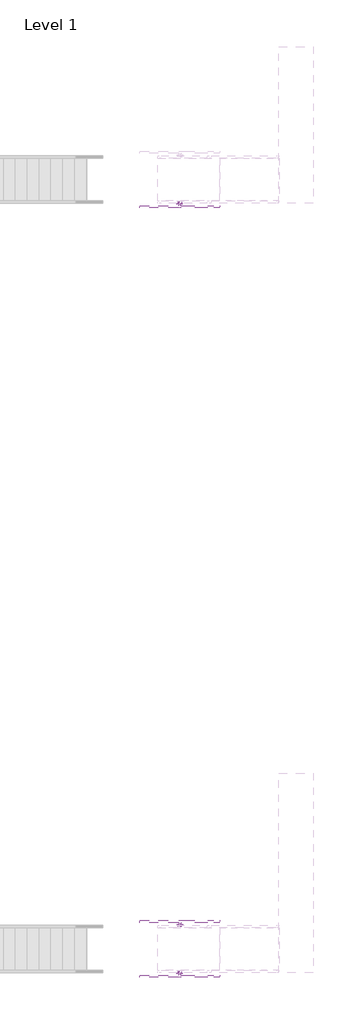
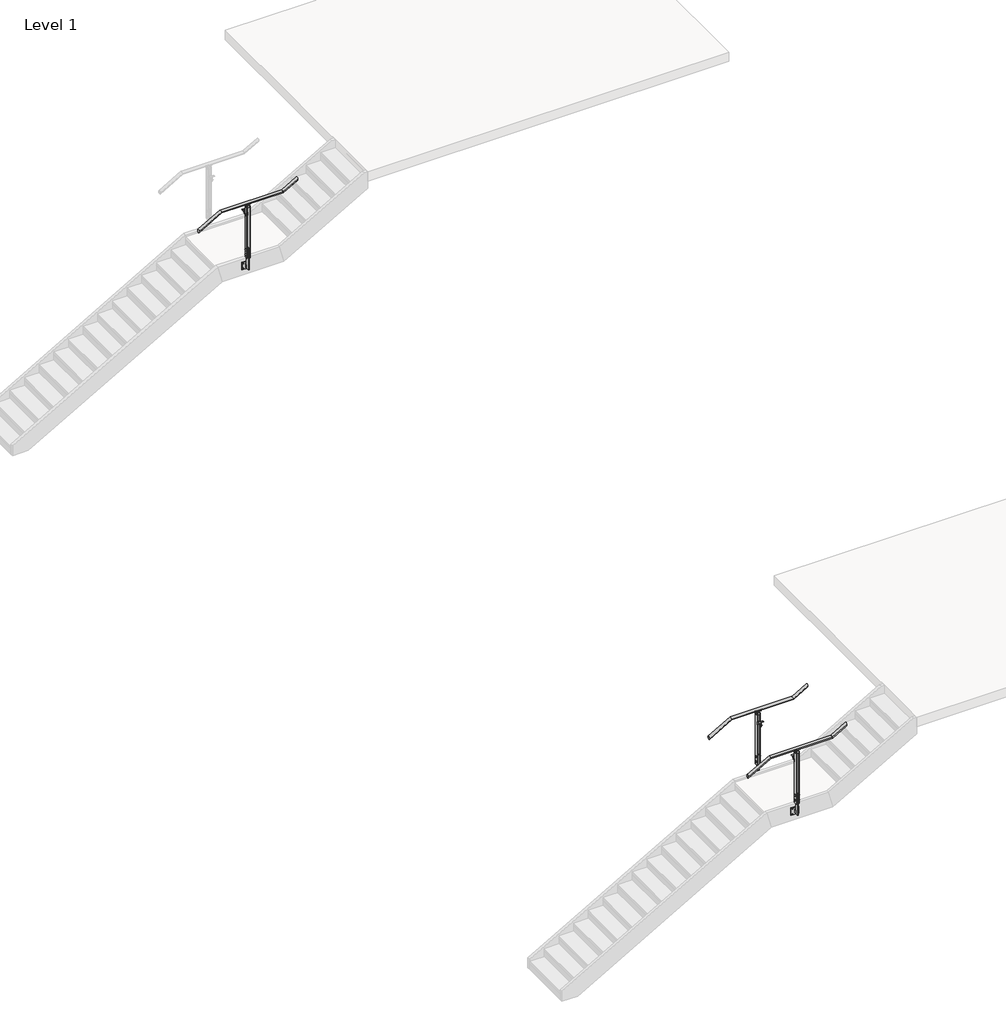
# One storey, part 27 of 36: 3 railings.
"""IFC4 building model written with IfcOpenShell, lengths in millimetres."""

from ifc_helpers import new_model, si_unit, point, frame, frame_2d, origin, place, context, project, spatial, polyline, circle_curve, ellipse_curve, trimmed, segment, composite_curve, outline, extrude, element, save
from ifc_brep_helpers import plane_surface, cylinder_surface, revolved_surface, advanced_brep

model = new_model("IFC4")

# Units and contexts
model_context = context("Model", 3, world=origin())
ifc_project = project(units=[si_unit("LENGTHUNIT", "METRE", prefix="MILLI")], contexts=[model_context])

# Site, building, storey
site = spatial("IfcSite", under=ifc_project)
building = spatial("IfcBuilding", under=site)
storey = spatial("IfcBuildingStorey", under=building, Name="Level 1", Elevation=0.0)

# Railings
placement = place(None, origin())
element("IfcRailing", 1, ObjectType="VIVA-BLADE-Perforated-Fascia Mount-Stair-Landing", at=placement, inside=storey, context=model_context, shape_type="SolidModel", body=[
    advanced_brep(
    [(161125.2211992, -2544.3711813, 3047.7740933), (161125.2211992, -2493.5711813, 3047.7740933), (161512.9665359, -2544.3711813, 3269.3428571), (161512.9665359, -2493.5711813, 3269.3428571), (162579.7665359, -2544.3711813, 3269.3428571), (162579.7665359, -2493.5711813, 3269.3428571), (162830.1961992, -2544.3711813, 3412.4455219), (162830.1961992, -2493.5711813, 3412.4455219)],
    [
        (0, 1, ellipse_curve(frame((161125.2211992, -2518.9711813, 3047.7740933), z_axis=(-1.0, 0.0, 0.0), x_axis=(0.0, 0.0, -1.0)), 29.2544781, 25.4)),
        (1, 0, ellipse_curve(frame((161125.2211992, -2518.9711813, 3047.7740933), z_axis=(-1.0, 0.0, 0.0), x_axis=(0.0, 0.0, -1.0)), 29.2544781, 25.4)),
        (0, 2),
        (2, 3, ellipse_curve(frame((161512.9665359, -2518.9711813, 3269.3428571), z_axis=(-0.9664996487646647, 0.0, -0.25666793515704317), x_axis=(0.2566679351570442, 0.0, -0.9664996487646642)), 26.2804027, 25.4)),
        (3, 1),
        (3, 2, ellipse_curve(frame((161512.9665359, -2518.9711813, 3269.3428571), z_axis=(-0.9664996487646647, 0.0, -0.25666793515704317), x_axis=(0.2566679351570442, 0.0, -0.9664996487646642)), 26.2804027, 25.4)),
        (2, 4),
        (4, 5, ellipse_curve(frame((162579.7665359, -2518.9711813, 3269.3428571), z_axis=(-0.966499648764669, 0.0, -0.25666793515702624), x_axis=(-0.25666793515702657, 0.0, 0.966499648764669)), 26.2804027, 25.4)),
        (5, 3),
        (5, 4, ellipse_curve(frame((162579.7665359, -2518.9711813, 3269.3428571), z_axis=(-0.966499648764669, 0.0, -0.25666793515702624), x_axis=(-0.25666793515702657, 0.0, 0.966499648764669)), 26.2804027, 25.4)),
        (6, 7, ellipse_curve(frame((162830.1961992, -2518.9711813, 3412.4455219), z_axis=(1.0, 0.0, 0.0), x_axis=(0.0, 0.0, -1.0)), 29.2544781, 25.4)),
        (7, 6, ellipse_curve(frame((162830.1961992, -2518.9711813, 3412.4455219), z_axis=(1.0, 0.0, 0.0), x_axis=(0.0, 0.0, -1.0)), 29.2544781, 25.4)),
        (4, 6),
        (7, 5),
    ],
    [
        plane_surface(frame((161125.2211992, -2518.9711813, 3077.0285714), z_axis=(-1.0, 0.0, 0.0), x_axis=(0.0, 1.0, 0.0))),
        cylinder_surface(frame((161137.8231282, -2518.9711813, 3054.9751956), z_axis=(-0.8682431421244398, 0.0, -0.49613893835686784), x_axis=(0.0, 1.0, 0.0)), 25.4),
        cylinder_surface(frame((161506.2211992, -2518.9711813, 3269.3428571), z_axis=(-1.0, 0.0, 0.0), x_axis=(0.0, 1.0, 0.0)), 25.4),
        plane_surface(frame((162830.1961992, -2518.9711813, 3441.7), z_axis=(1.0, 0.0, 0.0), x_axis=(0.0, 1.0, 0.0))),
        cylinder_surface(frame((162585.6231282, -2518.9711813, 3272.6894813), z_axis=(-0.8682431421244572, 0.0, -0.49613893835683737), x_axis=(0.0, 1.0, 0.0)), 25.4),
    ],
    [
        (0, [[1, 2]]),
        (1, [[-1, 3, 4, 5]]),
        (1, [[-2, -5, 6, -3]]),
        (2, [[-4, 7, 8, 9]]),
        (2, [[-6, -9, 10, -7]]),
        (3, [[11, 12]]),
        (4, [[-8, 13, -12, 14]]),
        (4, [[-10, -14, -11, -13]]),
    ],
),
    extrude(outline(composite_curve([segment(trimmed(circle_curve(frame_2d((0.0, 7.0)), 7.0), [point((0.0, 14.0))], [point((0.0, 0.0))], False, "CARTESIAN"), True, "CONTINUOUS"), segment(trimmed(circle_curve(frame_2d((0.0, 7.0)), 7.0), [point((0.0, 0.0))], [point((0.0, 14.0))], False, "CARTESIAN"), True, "CONTINUOUS")], self_intersect=False)), frame((161977.6244493, -2433.2875589, 3013.7229503), z_axis=(0.0012555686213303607, 0.0, 0.999999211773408), x_axis=(0.999999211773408, 0.0, -0.0012555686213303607)), (0.0, 0.0, 1.0), 75.97),
    extrude(outline(composite_curve([segment(trimmed(circle_curve(frame_2d((-2425.0396268, 3111.669086)), 19.05), [point((-2438.5692151, 3098.2581672))], [point((-2411.5100386, 3098.2581672))], True, "CARTESIAN"), True, "CONTINUOUS"), segment(polyline([(-2411.5100386, 3098.2581672), (-2410.483649, 3097.2407802)]), True, "CONTINUOUS"), segment(trimmed(circle_curve(frame_2d((-2411.5396268, 3096.1754583)), 1.5), [point((-2410.483649, 3097.2407802))], [point((-2410.5542254, 3095.0445366))], False, "CARTESIAN"), True, "CONTINUOUS"), segment(trimmed(circle_curve(frame_2d((-2425.0396268, 3111.669086)), 22.05), [point((-2410.5542254, 3095.0445366))], [point((-2439.5250283, 3095.0445366))], False, "CARTESIAN"), True, "CONTINUOUS"), segment(trimmed(circle_curve(frame_2d((-2438.5396268, 3096.1754583)), 1.5), [point((-2439.5250283, 3095.0445366))], [point((-2439.5956047, 3097.2407802))], False, "CARTESIAN"), True, "CONTINUOUS"), segment(polyline([(-2439.5956047, 3097.2407802), (-2438.5692151, 3098.2581672)]), True, "CONTINUOUS")], self_intersect=False)), frame((161941.2730645, 0.0, 0.0), z_axis=(1.0, 0.0, 0.0), x_axis=(0.0, 1.0, 0.0)), (0.0, 0.0, 1.0), 74.5229187),
    extrude(outline(composite_curve([segment(trimmed(circle_curve(frame_2d((3040.5995463, 161977.6843528)), 12.5), [point((3040.5995463, 161965.1843528))], [point((3040.5995463, 161990.1843528))], False, "CARTESIAN"), True, "CONTINUOUS"), segment(trimmed(circle_curve(frame_2d((3040.5995463, 161977.6843528)), 12.5), [point((3040.5995463, 161990.1843528))], [point((3040.5995463, 161965.1843528))], False, "CARTESIAN"), True, "CONTINUOUS")], self_intersect=False)), frame((0.0, -2493.5713846, 0.0), z_axis=(0.0, 1.0, 0.0), x_axis=(0.0, 0.0, 1.0)), (0.0, 0.0, 1.0), 82.061346),
    extrude(outline(polyline([(162004.7835349, -2487.2213846), (162004.7835349, -2493.5713846), (161950.6561349, -2493.5713846), (161950.6561349, -2487.2213846), (162004.7835349, -2487.2213846)])), frame((0.0, 0.0, 3013.6558249), z_axis=(0.0, 0.0, 1.0), x_axis=(1.0, 0.0, 0.0)), (0.0, 0.0, 1.0), 54.1734375),
    advanced_brep(
    [(162022.9460992, -2506.2110577, 3247.3396226), (162022.9460992, -2531.0831222, 3247.1963856), (162022.9460992, -2533.8920525, 3242.3696317), (162022.9460992, -2502.3751603, 3242.9503901), (161932.4712992, -2506.2110577, 3247.3396226), (161932.4712992, -2502.3751603, 3242.9503901), (161932.4712992, -2534.0058459, 3242.4322535), (161932.4712992, -2531.1700943, 3247.2447018)],
    [
        (0, 1, circle_curve(frame((162022.9460992, -2518.7748606, 3269.4544469), z_axis=(-1.0, 0.0, 0.0), x_axis=(0.0, 1.0, 0.0)), 25.4345159)),
        (1, 2, circle_curve(frame((162022.9460992, -2532.4147475, 3244.742217), z_axis=(1.0, 0.0, 0.0), x_axis=(0.0, 1.0, 0.0)), 2.7949225)),
        (2, 3, circle_curve(frame((162022.9460992, -2518.6413975, 3270.2170736), z_axis=(1.0, 0.0, 0.0), x_axis=(0.0, 1.0, 0.0)), 31.75)),
        (3, 0, circle_curve(frame((162022.9460992, -2504.6635, 3244.8213092), z_axis=(1.0, 0.0, 0.0), x_axis=(0.0, 1.0, 0.0)), 2.9558141)),
        (4, 5, circle_curve(frame((161932.4712992, -2504.6635, 3244.8213092), z_axis=(-1.0, 0.0, 0.0), x_axis=(0.0, 1.0, 0.0)), 2.9558141)),
        (5, 6, circle_curve(frame((161932.4712992, -2518.6413975, 3270.2170736), z_axis=(-1.0, 0.0, 0.0), x_axis=(0.0, 1.0, 0.0)), 31.75)),
        (6, 7, circle_curve(frame((161932.4712992, -2532.4147475, 3244.742217), z_axis=(-1.0, 0.0, 0.0), x_axis=(0.0, 1.0, 0.0)), 2.7949225)),
        (7, 4, circle_curve(frame((161932.4712992, -2518.7748606, 3269.4544469), z_axis=(1.0, 0.0, 0.0), x_axis=(0.0, 1.0, 0.0)), 25.4345159)),
        (0, 4),
        (7, 1),
        (6, 2),
        (5, 3),
    ],
    [
        plane_surface(frame((162022.9460992, -2493.3403447, 3269.4544469), z_axis=(1.0, 0.0, 0.0), x_axis=(0.0, 0.0, -1.0))),
        plane_surface(frame((161932.4712992, -2493.3403447, 3269.4544469), z_axis=(-1.0, 0.0, 0.0), x_axis=(0.0, 0.0, 1.0))),
        revolved_surface(polyline([(161932.4712992, -2493.3403447, 3269.4544469), (162022.9460992, -2493.3403447, 3269.4544469)]), (161932.4712992, -2518.7748606, 3269.4544469), (-1.0, 0.0, 0.0)),
        cylinder_surface(frame((161932.4712992, -2532.4147475, 3244.742217), z_axis=(1.0, 0.0, 0.0), x_axis=(0.0, 1.0, 0.0)), 2.7949225),
        cylinder_surface(frame((161932.4712992, -2518.6413975, 3270.2170736), z_axis=(1.0, 0.0, 0.0), x_axis=(0.0, 1.0, 0.0)), 31.75),
        cylinder_surface(frame((161932.4712992, -2504.6635, 3244.8213092), z_axis=(1.0, 0.0, 0.0), x_axis=(0.0, 1.0, 0.0)), 2.9558141),
    ],
    [
        (0, [[1, 2, 3, 4]]),
        (1, [[5, 6, 7, 8]]),
        (2, [[-1, 9, -8, 10]]),
        (3, [[-2, -10, -7, 11]]),
        (4, [[-3, -11, -6, 12]]),
        (5, [[-4, -12, -5, -9]]),
    ],
),
    extrude(outline(polyline([(162041.1967623, -2442.7709756), (162041.1967623, -2452.2959756), (161914.1967623, -2452.2959756), (161914.1967623, -2442.7709756), (162041.1967623, -2442.7709756)])), frame((0.0, 0.0, 2024.7428571), z_axis=(0.0, 0.0, 1.0), x_axis=(1.0, 0.0, 0.0)), (0.0, 0.0, 1.0), 127.0),
    extrude(outline(composite_curve([segment(trimmed(circle_curve(frame_2d((3229.6553571, 162004.776614)), 14.3679149), [point((3229.6553571, 161990.4086992))], [point((3244.023272, 162004.776614))], True, "CARTESIAN"), True, "CONTINUOUS"), segment(polyline([(3244.023272, 162004.776614), (3244.023272, 161950.6407843)]), True, "CONTINUOUS"), segment(trimmed(circle_curve(frame_2d((3229.6553571, 161950.6407843)), 14.3679149), [point((3244.023272, 161950.6407843))], [point((3229.6553571, 161965.0086992))], True, "CARTESIAN"), True, "CONTINUOUS"), segment(polyline([(3229.6553571, 161965.0086992), (3229.6553571, 161990.4086992)]), True, "CONTINUOUS")], self_intersect=False)), frame((0.0, -2521.5111813, 0.0), z_axis=(0.0, 1.0, 0.0), x_axis=(0.0, 0.0, 1.0)), (0.0, 0.0, 1.0), 5.08),
    extrude(outline(polyline([(161985.6377004, -2461.8209756), (161985.6377004, -2493.5717835), (161969.70171, -2493.5717835), (161969.70171, -2461.8209756), (161985.6377004, -2461.8209756)])), frame((0.0, 0.0, 2056.4928571), z_axis=(0.0, 0.0, 1.0), x_axis=(1.0, 0.0, 0.0)), (0.0, 0.0, 1.0), 63.5),
    extrude(outline(polyline([(161950.6338635, -2493.5713846), (161958.6586992, -2493.5713846), (161958.6586992, -2544.3737093), (161950.6338635, -2544.3737093), (161950.6338635, -2493.5713846)])), frame((0.0, 0.0, 2269.3940557), z_axis=(0.0, 0.0, 1.0), x_axis=(1.0, 0.0, 0.0)), (0.0, 0.0, 1.0), 942.7988015),
    extrude(outline(polyline([(2024.7428571, 161914.1967623), (2024.7428571, 162041.1967623), (2151.7428571, 162041.1967623), (2151.7428571, 161914.1967623), (2024.7428571, 161914.1967623)]), holes=[composite_curve([segment(trimmed(circle_curve(frame_2d((2132.6928571, 161933.2467623)), 4.7068371), [point((2132.6928571, 161937.9535994))], [point((2132.6928571, 161928.5399252))], True, "CARTESIAN"), True, "CONTINUOUS"), segment(trimmed(circle_curve(frame_2d((2132.6928571, 161933.2467623)), 4.7068371), [point((2132.6928571, 161928.5399252))], [point((2132.6928571, 161937.9535994))], True, "CARTESIAN"), True, "CONTINUOUS")], self_intersect=False), composite_curve([segment(trimmed(circle_curve(frame_2d((2132.6928571, 162022.1467623)), 4.7068371), [point((2132.6928571, 162026.8535994))], [point((2132.6928571, 162017.4399252))], True, "CARTESIAN"), True, "CONTINUOUS"), segment(trimmed(circle_curve(frame_2d((2132.6928571, 162022.1467623)), 4.7068371), [point((2132.6928571, 162017.4399252))], [point((2132.6928571, 162026.8535994))], True, "CARTESIAN"), True, "CONTINUOUS")], self_intersect=False), composite_curve([segment(trimmed(circle_curve(frame_2d((2043.7928571, 162022.1467623)), 4.7068371), [point((2043.7928571, 162026.8535994))], [point((2043.7928571, 162017.4399252))], True, "CARTESIAN"), True, "CONTINUOUS"), segment(trimmed(circle_curve(frame_2d((2043.7928571, 162022.1467623)), 4.7068371), [point((2043.7928571, 162017.4399252))], [point((2043.7928571, 162026.8535994))], True, "CARTESIAN"), True, "CONTINUOUS")], self_intersect=False), composite_curve([segment(trimmed(circle_curve(frame_2d((2043.7928571, 161933.2467623)), 4.7068371), [point((2043.7928571, 161937.9535994))], [point((2043.7928571, 161928.5399252))], True, "CARTESIAN"), True, "CONTINUOUS"), segment(trimmed(circle_curve(frame_2d((2043.7928571, 161933.2467623)), 4.7068371), [point((2043.7928571, 161928.5399252))], [point((2043.7928571, 161937.9535994))], True, "CARTESIAN"), True, "CONTINUOUS")], self_intersect=False)]), frame((0.0, -2461.8209756, 0.0), z_axis=(0.0, 1.0, 0.0), x_axis=(0.0, 0.0, 1.0)), (0.0, 0.0, 1.0), 9.525),
    extrude(outline(polyline([(161985.6377004, -2493.5717835), (161985.6377004, -2544.3717758), (161969.70171, -2544.3717758), (161969.70171, -2493.5717835), (161985.6377004, -2493.5717835)])), frame((0.0, 0.0, 2056.4928571), z_axis=(0.0, 0.0, 1.0), x_axis=(1.0, 0.0, 0.0)), (0.0, 0.0, 1.0), 393.7),
    extrude(outline(composite_curve([segment(trimmed(circle_curve(frame_2d((-2531.6736582, 3201.2845501)), 8.89), [point((-2540.5636582, 3201.2845501))], [point((-2522.7836582, 3201.2845501))], False, "CARTESIAN"), True, "CONTINUOUS"), segment(trimmed(circle_curve(frame_2d((-2531.6736582, 3201.2845501)), 8.89), [point((-2522.7836582, 3201.2845501))], [point((-2540.5636582, 3201.2845501))], False, "CARTESIAN"), True, "CONTINUOUS")], self_intersect=False)), frame((161945.9586992, 0.0, 0.0), z_axis=(1.0, 0.0, 0.0), x_axis=(0.0, 1.0, 0.0)), (0.0, 0.0, 1.0), 63.4880631),
    extrude(outline(composite_curve([segment(trimmed(circle_curve(frame_2d((-2506.2737603, 3201.2845501)), 8.89), [point((-2515.1637603, 3201.2845501))], [point((-2497.3837603, 3201.2845501))], False, "CARTESIAN"), True, "CONTINUOUS"), segment(trimmed(circle_curve(frame_2d((-2506.2737603, 3201.2845501)), 8.89), [point((-2497.3837603, 3201.2845501))], [point((-2515.1637603, 3201.2845501))], False, "CARTESIAN"), True, "CONTINUOUS")], self_intersect=False)), frame((161945.9586992, 0.0, 0.0), z_axis=(1.0, 0.0, 0.0), x_axis=(0.0, 1.0, 0.0)), (0.0, 0.0, 1.0), 63.4880631),
    extrude(outline(polyline([(3189.9551571, 161958.6586992), (3189.9551571, 161996.7586992), (3223.3053571, 161996.7586992), (3229.6553571, 161990.4086992), (3229.6553571, 161965.0086992), (3223.3053571, 161958.6586992), (3189.9551571, 161958.6586992)])), frame((0.0, -2544.3737093, 0.0), z_axis=(0.0, 1.0, 0.0), x_axis=(0.0, 0.0, 1.0)), (0.0, 0.0, 1.0), 50.8025279),
    extrude(outline(composite_curve([segment(trimmed(circle_curve(frame_2d((-2518.9709756, 2416.8976493)), 19.05), [point((-2538.0209756, 2416.8976493))], [point((-2499.9209756, 2416.8976493))], False, "CARTESIAN"), True, "CONTINUOUS"), segment(trimmed(circle_curve(frame_2d((-2518.9709756, 2416.8976493)), 19.05), [point((-2499.9209756, 2416.8976493))], [point((-2538.0209756, 2416.8976493))], False, "CARTESIAN"), True, "CONTINUOUS")], self_intersect=False)), frame((161941.2596992, 0.0, 0.0), z_axis=(1.0, 0.0, 0.0), x_axis=(0.0, 1.0, 0.0)), (0.0, 0.0, 1.0), 72.8981531),
    extrude(outline(composite_curve([segment(trimmed(circle_curve(frame_2d((-2518.9709756, 2327.9976493)), 19.05), [point((-2538.0209756, 2327.9976493))], [point((-2499.9209756, 2327.9976493))], False, "CARTESIAN"), True, "CONTINUOUS"), segment(trimmed(circle_curve(frame_2d((-2518.9709756, 2327.9976493)), 19.05), [point((-2499.9209756, 2327.9976493))], [point((-2538.0209756, 2327.9976493))], False, "CARTESIAN"), True, "CONTINUOUS")], self_intersect=False)), frame((161941.2596992, 0.0, 0.0), z_axis=(1.0, 0.0, 0.0), x_axis=(0.0, 1.0, 0.0)), (0.0, 0.0, 1.0), 72.8981531),
    extrude(outline(polyline([(161996.7586611, -2493.5713846), (162004.7596611, -2493.5713846), (162004.7596611, -2544.3737093), (161996.7586611, -2544.3737093), (161996.7586611, -2493.5713846)])), frame((0.0, 0.0, 2269.3940557), z_axis=(0.0, 0.0, 1.0), x_axis=(1.0, 0.0, 0.0)), (0.0, 0.0, 1.0), 942.7988015),
])
element("IfcRailing", 2, ObjectType="VIVA-BLADE-Wire Mesh-Fascia Mount-Stair-Landing", at=placement, inside=storey, context=model_context, shape_type="SolidModel", body=[
    advanced_brep(
    [(161125.2211992, -19012.2846057, 3047.7740933), (161125.2211992, -18961.4846057, 3047.7740933), (161512.9665359, -19012.2846057, 3269.3428571), (161512.9665359, -18961.4846057, 3269.3428571), (162579.7665359, -19012.2846057, 3269.3428571), (162579.7665359, -18961.4846057, 3269.3428571), (162830.1961992, -19012.2846057, 3412.4455219), (162830.1961992, -18961.4846057, 3412.4455219)],
    [
        (0, 1, ellipse_curve(frame((161125.2211992, -18986.8846057, 3047.7740933), z_axis=(-1.0, 0.0, 0.0), x_axis=(0.0, 0.0, -1.0)), 29.2544781, 25.4)),
        (1, 0, ellipse_curve(frame((161125.2211992, -18986.8846057, 3047.7740933), z_axis=(-1.0, 0.0, 0.0), x_axis=(0.0, 0.0, -1.0)), 29.2544781, 25.4)),
        (0, 2),
        (2, 3, ellipse_curve(frame((161512.9665359, -18986.8846057, 3269.3428571), z_axis=(-0.9664996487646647, 0.0, -0.25666793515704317), x_axis=(0.2566679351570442, 0.0, -0.9664996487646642)), 26.2804027, 25.4)),
        (3, 1),
        (3, 2, ellipse_curve(frame((161512.9665359, -18986.8846057, 3269.3428571), z_axis=(-0.9664996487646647, 0.0, -0.25666793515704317), x_axis=(0.2566679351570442, 0.0, -0.9664996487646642)), 26.2804027, 25.4)),
        (2, 4),
        (4, 5, ellipse_curve(frame((162579.7665359, -18986.8846057, 3269.3428571), z_axis=(-0.966499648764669, 0.0, -0.25666793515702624), x_axis=(-0.25666793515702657, 0.0, 0.966499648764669)), 26.2804027, 25.4)),
        (5, 3),
        (5, 4, ellipse_curve(frame((162579.7665359, -18986.8846057, 3269.3428571), z_axis=(-0.966499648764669, 0.0, -0.25666793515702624), x_axis=(-0.25666793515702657, 0.0, 0.966499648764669)), 26.2804027, 25.4)),
        (6, 7, ellipse_curve(frame((162830.1961992, -18986.8846057, 3412.4455219), z_axis=(1.0, 0.0, 0.0), x_axis=(0.0, 0.0, -1.0)), 29.2544781, 25.4)),
        (7, 6, ellipse_curve(frame((162830.1961992, -18986.8846057, 3412.4455219), z_axis=(1.0, 0.0, 0.0), x_axis=(0.0, 0.0, -1.0)), 29.2544781, 25.4)),
        (4, 6),
        (7, 5),
    ],
    [
        plane_surface(frame((161125.2211992, -18986.8846057, 3077.0285714), z_axis=(-1.0, 0.0, 0.0), x_axis=(0.0, 1.0, 0.0))),
        cylinder_surface(frame((161137.8231282, -18986.8846057, 3054.9751956), z_axis=(-0.8682431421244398, 0.0, -0.49613893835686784), x_axis=(0.0, 1.0, 0.0)), 25.4),
        cylinder_surface(frame((161506.2211992, -18986.8846057, 3269.3428571), z_axis=(-1.0, 0.0, 0.0), x_axis=(0.0, 1.0, 0.0)), 25.4),
        plane_surface(frame((162830.1961992, -18986.8846057, 3441.7), z_axis=(1.0, 0.0, 0.0), x_axis=(0.0, 1.0, 0.0))),
        cylinder_surface(frame((162585.6231282, -18986.8846057, 3272.6894813), z_axis=(-0.8682431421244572, 0.0, -0.49613893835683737), x_axis=(0.0, 1.0, 0.0)), 25.4),
    ],
    [
        (0, [[1, 2]]),
        (1, [[-1, 3, 4, 5]]),
        (1, [[-2, -5, 6, -3]]),
        (2, [[-4, 7, 8, 9]]),
        (2, [[-6, -9, 10, -7]]),
        (3, [[11, 12]]),
        (4, [[-8, 13, -12, 14]]),
        (4, [[-10, -14, -11, -13]]),
    ],
),
    extrude(outline(composite_curve([segment(trimmed(circle_curve(frame_2d((0.0, 7.0)), 7.0), [point((0.0, 14.0))], [point((0.0, 0.0))], False, "CARTESIAN"), True, "CONTINUOUS"), segment(trimmed(circle_curve(frame_2d((0.0, 7.0)), 7.0), [point((0.0, 0.0))], [point((0.0, 14.0))], False, "CARTESIAN"), True, "CONTINUOUS")], self_intersect=False)), frame((161977.6244493, -18901.2009833, 3013.7229503), z_axis=(0.0012555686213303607, 0.0, 0.999999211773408), x_axis=(0.999999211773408, 0.0, -0.0012555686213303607)), (0.0, 0.0, 1.0), 75.97),
    extrude(outline(composite_curve([segment(trimmed(circle_curve(frame_2d((-18892.9530512, 3111.669086)), 19.05), [point((-18906.4826395, 3098.2581672))], [point((-18879.423463, 3098.2581672))], True, "CARTESIAN"), True, "CONTINUOUS"), segment(polyline([(-18879.423463, 3098.2581672), (-18878.3970734, 3097.2407802)]), True, "CONTINUOUS"), segment(trimmed(circle_curve(frame_2d((-18879.4530512, 3096.1754583)), 1.5), [point((-18878.3970734, 3097.2407802))], [point((-18878.4676498, 3095.0445366))], False, "CARTESIAN"), True, "CONTINUOUS"), segment(trimmed(circle_curve(frame_2d((-18892.9530512, 3111.669086)), 22.05), [point((-18878.4676498, 3095.0445366))], [point((-18907.4384527, 3095.0445366))], False, "CARTESIAN"), True, "CONTINUOUS"), segment(trimmed(circle_curve(frame_2d((-18906.4530512, 3096.1754583)), 1.5), [point((-18907.4384527, 3095.0445366))], [point((-18907.5090291, 3097.2407802))], False, "CARTESIAN"), True, "CONTINUOUS"), segment(polyline([(-18907.5090291, 3097.2407802), (-18906.4826395, 3098.2581672)]), True, "CONTINUOUS")], self_intersect=False)), frame((161941.2730645, 0.0, 0.0), z_axis=(1.0, 0.0, 0.0), x_axis=(0.0, 1.0, 0.0)), (0.0, 0.0, 1.0), 74.5229187),
    extrude(outline(composite_curve([segment(trimmed(circle_curve(frame_2d((3040.5995463, 161977.6843528)), 12.5), [point((3040.5995463, 161965.1843528))], [point((3040.5995463, 161990.1843528))], False, "CARTESIAN"), True, "CONTINUOUS"), segment(trimmed(circle_curve(frame_2d((3040.5995463, 161977.6843528)), 12.5), [point((3040.5995463, 161990.1843528))], [point((3040.5995463, 161965.1843528))], False, "CARTESIAN"), True, "CONTINUOUS")], self_intersect=False)), frame((0.0, -18961.484809, 0.0), z_axis=(0.0, 1.0, 0.0), x_axis=(0.0, 0.0, 1.0)), (0.0, 0.0, 1.0), 82.061346),
    extrude(outline(polyline([(162004.7835349, -18955.134809), (162004.7835349, -18961.484809), (161950.6561349, -18961.484809), (161950.6561349, -18955.134809), (162004.7835349, -18955.134809)])), frame((0.0, 0.0, 3013.6558249), z_axis=(0.0, 0.0, 1.0), x_axis=(1.0, 0.0, 0.0)), (0.0, 0.0, 1.0), 54.1734375),
    advanced_brep(
    [(162022.9460992, -18974.1244821, 3247.3396226), (162022.9460992, -18998.9965466, 3247.1963856), (162022.9460992, -19001.8054769, 3242.3696317), (162022.9460992, -18970.2885847, 3242.9503901), (161932.4712992, -18974.1244821, 3247.3396226), (161932.4712992, -18970.2885847, 3242.9503901), (161932.4712992, -19001.9192703, 3242.4322535), (161932.4712992, -18999.0835187, 3247.2447018)],
    [
        (0, 1, circle_curve(frame((162022.9460992, -18986.688285, 3269.4544469), z_axis=(-1.0, 0.0, 0.0), x_axis=(0.0, 1.0, 0.0)), 25.4345159)),
        (1, 2, circle_curve(frame((162022.9460992, -19000.3281719, 3244.742217), z_axis=(1.0, 0.0, 0.0), x_axis=(0.0, 1.0, 0.0)), 2.7949225)),
        (2, 3, circle_curve(frame((162022.9460992, -18986.5548219, 3270.2170736), z_axis=(1.0, 0.0, 0.0), x_axis=(0.0, 1.0, 0.0)), 31.75)),
        (3, 0, circle_curve(frame((162022.9460992, -18972.5769244, 3244.8213092), z_axis=(1.0, 0.0, 0.0), x_axis=(0.0, 1.0, 0.0)), 2.9558141)),
        (4, 5, circle_curve(frame((161932.4712992, -18972.5769244, 3244.8213092), z_axis=(-1.0, 0.0, 0.0), x_axis=(0.0, 1.0, 0.0)), 2.9558141)),
        (5, 6, circle_curve(frame((161932.4712992, -18986.5548219, 3270.2170736), z_axis=(-1.0, 0.0, 0.0), x_axis=(0.0, 1.0, 0.0)), 31.75)),
        (6, 7, circle_curve(frame((161932.4712992, -19000.3281719, 3244.742217), z_axis=(-1.0, 0.0, 0.0), x_axis=(0.0, 1.0, 0.0)), 2.7949225)),
        (7, 4, circle_curve(frame((161932.4712992, -18986.688285, 3269.4544469), z_axis=(1.0, 0.0, 0.0), x_axis=(0.0, 1.0, 0.0)), 25.4345159)),
        (0, 4),
        (7, 1),
        (6, 2),
        (5, 3),
    ],
    [
        plane_surface(frame((162022.9460992, -18961.2537691, 3269.4544469), z_axis=(1.0, 0.0, 0.0), x_axis=(0.0, 0.0, -1.0))),
        plane_surface(frame((161932.4712992, -18961.2537691, 3269.4544469), z_axis=(-1.0, 0.0, 0.0), x_axis=(0.0, 0.0, 1.0))),
        revolved_surface(polyline([(161932.4712992, -18961.2537691, 3269.4544469), (162022.9460992, -18961.2537691, 3269.4544469)]), (161932.4712992, -18986.688285, 3269.4544469), (-1.0, 0.0, 0.0)),
        cylinder_surface(frame((161932.4712992, -19000.3281719, 3244.742217), z_axis=(1.0, 0.0, 0.0), x_axis=(0.0, 1.0, 0.0)), 2.7949225),
        cylinder_surface(frame((161932.4712992, -18986.5548219, 3270.2170736), z_axis=(1.0, 0.0, 0.0), x_axis=(0.0, 1.0, 0.0)), 31.75),
        cylinder_surface(frame((161932.4712992, -18972.5769244, 3244.8213092), z_axis=(1.0, 0.0, 0.0), x_axis=(0.0, 1.0, 0.0)), 2.9558141),
    ],
    [
        (0, [[1, 2, 3, 4]]),
        (1, [[5, 6, 7, 8]]),
        (2, [[-1, 9, -8, 10]]),
        (3, [[-2, -10, -7, 11]]),
        (4, [[-3, -11, -6, 12]]),
        (5, [[-4, -12, -5, -9]]),
    ],
),
    extrude(outline(polyline([(162041.1967623, -18910.6844), (162041.1967623, -18920.2094), (161914.1967623, -18920.2094), (161914.1967623, -18910.6844), (162041.1967623, -18910.6844)])), frame((0.0, 0.0, 2024.7428571), z_axis=(0.0, 0.0, 1.0), x_axis=(1.0, 0.0, 0.0)), (0.0, 0.0, 1.0), 127.0),
    extrude(outline(composite_curve([segment(trimmed(circle_curve(frame_2d((3229.6553571, 162004.776614)), 14.3679149), [point((3229.6553571, 161990.4086992))], [point((3244.023272, 162004.776614))], True, "CARTESIAN"), True, "CONTINUOUS"), segment(polyline([(3244.023272, 162004.776614), (3244.023272, 161950.6407843)]), True, "CONTINUOUS"), segment(trimmed(circle_curve(frame_2d((3229.6553571, 161950.6407843)), 14.3679149), [point((3244.023272, 161950.6407843))], [point((3229.6553571, 161965.0086992))], True, "CARTESIAN"), True, "CONTINUOUS"), segment(polyline([(3229.6553571, 161965.0086992), (3229.6553571, 161990.4086992)]), True, "CONTINUOUS")], self_intersect=False)), frame((0.0, -18989.4246057, 0.0), z_axis=(0.0, 1.0, 0.0), x_axis=(0.0, 0.0, 1.0)), (0.0, 0.0, 1.0), 5.08),
    extrude(outline(polyline([(161985.6377004, -18929.7344), (161985.6377004, -18961.4852079), (161969.70171, -18961.4852079), (161969.70171, -18929.7344), (161985.6377004, -18929.7344)])), frame((0.0, 0.0, 2056.4928571), z_axis=(0.0, 0.0, 1.0), x_axis=(1.0, 0.0, 0.0)), (0.0, 0.0, 1.0), 63.5),
    extrude(outline(polyline([(161950.6338635, -18961.484809), (161958.6586992, -18961.484809), (161958.6586992, -19012.2871337), (161950.6338635, -19012.2871337), (161950.6338635, -18961.484809)])), frame((0.0, 0.0, 2269.3940557), z_axis=(0.0, 0.0, 1.0), x_axis=(1.0, 0.0, 0.0)), (0.0, 0.0, 1.0), 942.7988015),
    extrude(outline(polyline([(2024.7428571, 161914.1967623), (2024.7428571, 162041.1967623), (2151.7428571, 162041.1967623), (2151.7428571, 161914.1967623), (2024.7428571, 161914.1967623)]), holes=[composite_curve([segment(trimmed(circle_curve(frame_2d((2132.6928571, 161933.2467623)), 4.7068371), [point((2132.6928571, 161937.9535994))], [point((2132.6928571, 161928.5399252))], True, "CARTESIAN"), True, "CONTINUOUS"), segment(trimmed(circle_curve(frame_2d((2132.6928571, 161933.2467623)), 4.7068371), [point((2132.6928571, 161928.5399252))], [point((2132.6928571, 161937.9535994))], True, "CARTESIAN"), True, "CONTINUOUS")], self_intersect=False), composite_curve([segment(trimmed(circle_curve(frame_2d((2132.6928571, 162022.1467623)), 4.7068371), [point((2132.6928571, 162026.8535994))], [point((2132.6928571, 162017.4399252))], True, "CARTESIAN"), True, "CONTINUOUS"), segment(trimmed(circle_curve(frame_2d((2132.6928571, 162022.1467623)), 4.7068371), [point((2132.6928571, 162017.4399252))], [point((2132.6928571, 162026.8535994))], True, "CARTESIAN"), True, "CONTINUOUS")], self_intersect=False), composite_curve([segment(trimmed(circle_curve(frame_2d((2043.7928571, 162022.1467623)), 4.7068371), [point((2043.7928571, 162026.8535994))], [point((2043.7928571, 162017.4399252))], True, "CARTESIAN"), True, "CONTINUOUS"), segment(trimmed(circle_curve(frame_2d((2043.7928571, 162022.1467623)), 4.7068371), [point((2043.7928571, 162017.4399252))], [point((2043.7928571, 162026.8535994))], True, "CARTESIAN"), True, "CONTINUOUS")], self_intersect=False), composite_curve([segment(trimmed(circle_curve(frame_2d((2043.7928571, 161933.2467623)), 4.7068371), [point((2043.7928571, 161937.9535994))], [point((2043.7928571, 161928.5399252))], True, "CARTESIAN"), True, "CONTINUOUS"), segment(trimmed(circle_curve(frame_2d((2043.7928571, 161933.2467623)), 4.7068371), [point((2043.7928571, 161928.5399252))], [point((2043.7928571, 161937.9535994))], True, "CARTESIAN"), True, "CONTINUOUS")], self_intersect=False)]), frame((0.0, -18929.7344, 0.0), z_axis=(0.0, 1.0, 0.0), x_axis=(0.0, 0.0, 1.0)), (0.0, 0.0, 1.0), 9.525),
    extrude(outline(polyline([(161985.6377004, -18961.4852079), (161985.6377004, -19012.2852002), (161969.70171, -19012.2852002), (161969.70171, -18961.4852079), (161985.6377004, -18961.4852079)])), frame((0.0, 0.0, 2056.4928571), z_axis=(0.0, 0.0, 1.0), x_axis=(1.0, 0.0, 0.0)), (0.0, 0.0, 1.0), 393.7),
    extrude(outline(composite_curve([segment(trimmed(circle_curve(frame_2d((-18999.5870826, 3201.2845501)), 8.89), [point((-19008.4770826, 3201.2845501))], [point((-18990.6970826, 3201.2845501))], False, "CARTESIAN"), True, "CONTINUOUS"), segment(trimmed(circle_curve(frame_2d((-18999.5870826, 3201.2845501)), 8.89), [point((-18990.6970826, 3201.2845501))], [point((-19008.4770826, 3201.2845501))], False, "CARTESIAN"), True, "CONTINUOUS")], self_intersect=False)), frame((161945.9586992, 0.0, 0.0), z_axis=(1.0, 0.0, 0.0), x_axis=(0.0, 1.0, 0.0)), (0.0, 0.0, 1.0), 63.4880631),
    extrude(outline(composite_curve([segment(trimmed(circle_curve(frame_2d((-18974.1871847, 3201.2845501)), 8.89), [point((-18983.0771847, 3201.2845501))], [point((-18965.2971847, 3201.2845501))], False, "CARTESIAN"), True, "CONTINUOUS"), segment(trimmed(circle_curve(frame_2d((-18974.1871847, 3201.2845501)), 8.89), [point((-18965.2971847, 3201.2845501))], [point((-18983.0771847, 3201.2845501))], False, "CARTESIAN"), True, "CONTINUOUS")], self_intersect=False)), frame((161945.9586992, 0.0, 0.0), z_axis=(1.0, 0.0, 0.0), x_axis=(0.0, 1.0, 0.0)), (0.0, 0.0, 1.0), 63.4880631),
    extrude(outline(polyline([(3189.9551571, 161958.6586992), (3189.9551571, 161996.7586992), (3223.3053571, 161996.7586992), (3229.6553571, 161990.4086992), (3229.6553571, 161965.0086992), (3223.3053571, 161958.6586992), (3189.9551571, 161958.6586992)])), frame((0.0, -19012.2871337, 0.0), z_axis=(0.0, 1.0, 0.0), x_axis=(0.0, 0.0, 1.0)), (0.0, 0.0, 1.0), 50.8025279),
    extrude(outline(composite_curve([segment(trimmed(circle_curve(frame_2d((-18986.8844, 2416.8976493)), 19.05), [point((-19005.9344, 2416.8976493))], [point((-18967.8344, 2416.8976493))], False, "CARTESIAN"), True, "CONTINUOUS"), segment(trimmed(circle_curve(frame_2d((-18986.8844, 2416.8976493)), 19.05), [point((-18967.8344, 2416.8976493))], [point((-19005.9344, 2416.8976493))], False, "CARTESIAN"), True, "CONTINUOUS")], self_intersect=False)), frame((161941.2596992, 0.0, 0.0), z_axis=(1.0, 0.0, 0.0), x_axis=(0.0, 1.0, 0.0)), (0.0, 0.0, 1.0), 72.8981531),
    extrude(outline(composite_curve([segment(trimmed(circle_curve(frame_2d((-18986.8844, 2327.9976493)), 19.05), [point((-19005.9344, 2327.9976493))], [point((-18967.8344, 2327.9976493))], False, "CARTESIAN"), True, "CONTINUOUS"), segment(trimmed(circle_curve(frame_2d((-18986.8844, 2327.9976493)), 19.05), [point((-18967.8344, 2327.9976493))], [point((-19005.9344, 2327.9976493))], False, "CARTESIAN"), True, "CONTINUOUS")], self_intersect=False)), frame((161941.2596992, 0.0, 0.0), z_axis=(1.0, 0.0, 0.0), x_axis=(0.0, 1.0, 0.0)), (0.0, 0.0, 1.0), 72.8981531),
    extrude(outline(polyline([(161996.7586611, -18961.484809), (162004.7596611, -18961.484809), (162004.7596611, -19012.2871337), (161996.7586611, -19012.2871337), (161996.7586611, -18961.484809)])), frame((0.0, 0.0, 2269.3940557), z_axis=(0.0, 0.0, 1.0), x_axis=(1.0, 0.0, 0.0)), (0.0, 0.0, 1.0), 942.7988015),
])
element("IfcRailing", 3, ObjectType="VIVA-BLADE-Wire Mesh-Fascia Mount-Stair-Landing", at=placement, inside=storey, context=model_context, shape_type="SolidModel", body=[
    advanced_brep(
    [(161125.2211992, -17843.8846057, 3047.7740933), (161125.2211992, -17793.0846057, 3047.7740933), (161512.9665359, -17843.8846057, 3269.3428571), (161512.9665359, -17793.0846057, 3269.3428571), (162579.7665359, -17843.8846057, 3269.3428571), (162579.7665359, -17793.0846057, 3269.3428571), (162830.1961992, -17843.8846057, 3412.4455219), (162830.1961992, -17793.0846057, 3412.4455219)],
    [
        (0, 1, ellipse_curve(frame((161125.2211992, -17818.4846057, 3047.7740933), z_axis=(-1.0, 0.0, 0.0), x_axis=(0.0, 0.0, -1.0)), 29.2544781, 25.4)),
        (1, 0, ellipse_curve(frame((161125.2211992, -17818.4846057, 3047.7740933), z_axis=(-1.0, 0.0, 0.0), x_axis=(0.0, 0.0, -1.0)), 29.2544781, 25.4)),
        (0, 2),
        (2, 3, ellipse_curve(frame((161512.9665359, -17818.4846057, 3269.3428571), z_axis=(-0.9664996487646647, 0.0, -0.25666793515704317), x_axis=(0.2566679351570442, 0.0, -0.9664996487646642)), 26.2804027, 25.4)),
        (3, 1),
        (3, 2, ellipse_curve(frame((161512.9665359, -17818.4846057, 3269.3428571), z_axis=(-0.9664996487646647, 0.0, -0.25666793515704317), x_axis=(0.2566679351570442, 0.0, -0.9664996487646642)), 26.2804027, 25.4)),
        (2, 4),
        (4, 5, ellipse_curve(frame((162579.7665359, -17818.4846057, 3269.3428571), z_axis=(-0.966499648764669, 0.0, -0.25666793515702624), x_axis=(-0.25666793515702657, 0.0, 0.966499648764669)), 26.2804027, 25.4)),
        (5, 3),
        (5, 4, ellipse_curve(frame((162579.7665359, -17818.4846057, 3269.3428571), z_axis=(-0.966499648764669, 0.0, -0.25666793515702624), x_axis=(-0.25666793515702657, 0.0, 0.966499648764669)), 26.2804027, 25.4)),
        (6, 7, ellipse_curve(frame((162830.1961992, -17818.4846057, 3412.4455219), z_axis=(1.0, 0.0, 0.0), x_axis=(0.0, 0.0, -1.0)), 29.2544781, 25.4)),
        (7, 6, ellipse_curve(frame((162830.1961992, -17818.4846057, 3412.4455219), z_axis=(1.0, 0.0, 0.0), x_axis=(0.0, 0.0, -1.0)), 29.2544781, 25.4)),
        (4, 6),
        (7, 5),
    ],
    [
        plane_surface(frame((161125.2211992, -17818.4846057, 3077.0285714), z_axis=(-1.0, 0.0, 0.0), x_axis=(0.0, 1.0, 0.0))),
        cylinder_surface(frame((161137.8231282, -17818.4846057, 3054.9751956), z_axis=(-0.8682431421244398, 0.0, -0.49613893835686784), x_axis=(0.0, 1.0, 0.0)), 25.4),
        cylinder_surface(frame((161506.2211992, -17818.4846057, 3269.3428571), z_axis=(-1.0, 0.0, 0.0), x_axis=(0.0, 1.0, 0.0)), 25.4),
        plane_surface(frame((162830.1961992, -17818.4846057, 3441.7), z_axis=(1.0, 0.0, 0.0), x_axis=(0.0, 1.0, 0.0))),
        cylinder_surface(frame((162585.6231282, -17818.4846057, 3272.6894813), z_axis=(-0.8682431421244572, 0.0, -0.49613893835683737), x_axis=(0.0, 1.0, 0.0)), 25.4),
    ],
    [
        (0, [[1, 2]]),
        (1, [[-1, 3, 4, 5]]),
        (1, [[-2, -5, 6, -3]]),
        (2, [[-4, 7, 8, 9]]),
        (2, [[-6, -9, 10, -7]]),
        (3, [[11, 12]]),
        (4, [[-8, 13, -12, 14]]),
        (4, [[-10, -14, -11, -13]]),
    ],
),
    extrude(outline(composite_curve([segment(trimmed(circle_curve(frame_2d((0.0, -7.0)), 7.0), [point((0.0, -14.0))], [point((0.0, 0.0))], False, "CARTESIAN"), True, "CONTINUOUS"), segment(trimmed(circle_curve(frame_2d((0.0, -7.0)), 7.0), [point((0.0, 0.0))], [point((0.0, -14.0))], False, "CARTESIAN"), True, "CONTINUOUS")], self_intersect=False)), frame((161977.6244493, -17904.1682282, 3013.7229503), z_axis=(0.0012555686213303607, 0.0, 0.999999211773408), x_axis=(0.999999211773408, 0.0, -0.0012555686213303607)), (0.0, 0.0, 1.0), 75.97),
    extrude(outline(composite_curve([segment(polyline([(-17898.886572, 3098.2581672), (-17897.8601823, 3097.2407802)]), True, "CONTINUOUS"), segment(trimmed(circle_curve(frame_2d((-17898.9161602, 3096.1754583)), 1.5), [point((-17897.8601823, 3097.2407802))], [point((-17897.9307587, 3095.0445366))], False, "CARTESIAN"), True, "CONTINUOUS"), segment(trimmed(circle_curve(frame_2d((-17912.4161602, 3111.669086)), 22.05), [point((-17897.9307587, 3095.0445366))], [point((-17926.9015617, 3095.0445366))], False, "CARTESIAN"), True, "CONTINUOUS"), segment(trimmed(circle_curve(frame_2d((-17925.9161602, 3096.1754583)), 1.5), [point((-17926.9015617, 3095.0445366))], [point((-17926.972138, 3097.2407802))], False, "CARTESIAN"), True, "CONTINUOUS"), segment(polyline([(-17926.972138, 3097.2407802), (-17925.9457484, 3098.2581672)]), True, "CONTINUOUS"), segment(trimmed(circle_curve(frame_2d((-17912.4161602, 3111.669086)), 19.05), [point((-17925.9457484, 3098.2581672))], [point((-17898.886572, 3098.2581672))], True, "CARTESIAN"), True, "CONTINUOUS")], self_intersect=False)), frame((161941.2730645, 0.0, 0.0), z_axis=(1.0, 0.0, 0.0), x_axis=(0.0, 1.0, 0.0)), (0.0, 0.0, 1.0), 74.5229187),
    extrude(outline(composite_curve([segment(trimmed(circle_curve(frame_2d((3040.5995463, 161977.6843528)), 12.5), [point((3040.5995463, 161965.1843528))], [point((3040.5995463, 161990.1843528))], False, "CARTESIAN"), True, "CONTINUOUS"), segment(trimmed(circle_curve(frame_2d((3040.5995463, 161977.6843528)), 12.5), [point((3040.5995463, 161990.1843528))], [point((3040.5995463, 161965.1843528))], False, "CARTESIAN"), True, "CONTINUOUS")], self_intersect=False)), frame((0.0, -17925.9457484, 0.0), z_axis=(0.0, 1.0, 0.0), x_axis=(0.0, 0.0, 1.0)), (0.0, 0.0, 1.0), 82.061346),
    extrude(outline(polyline([(162004.7835349, -17850.2344024), (161950.6561349, -17850.2344024), (161950.6561349, -17843.8844024), (162004.7835349, -17843.8844024), (162004.7835349, -17850.2344024)])), frame((0.0, 0.0, 3013.6558249), z_axis=(0.0, 0.0, 1.0), x_axis=(1.0, 0.0, 0.0)), (0.0, 0.0, 1.0), 54.1734375),
    advanced_brep(
    [(162022.9460992, -17831.2447293, 3247.3396226), (162022.9460992, -17835.0806268, 3242.9503901), (162022.9460992, -17803.5637345, 3242.3696317), (162022.9460992, -17806.3726648, 3247.1963856), (161932.4712992, -17831.2447293, 3247.3396226), (161932.4712992, -17806.2856927, 3247.2447018), (161932.4712992, -17803.4499411, 3242.4322535), (161932.4712992, -17835.0806268, 3242.9503901)],
    [
        (0, 1, circle_curve(frame((162022.9460992, -17832.792287, 3244.8213092), z_axis=(1.0, 0.0, 0.0), x_axis=(0.0, -1.0, 0.0)), 2.9558141)),
        (1, 2, circle_curve(frame((162022.9460992, -17818.8143895, 3270.2170736), z_axis=(1.0, 0.0, 0.0), x_axis=(0.0, -1.0, 0.0)), 31.75)),
        (2, 3, circle_curve(frame((162022.9460992, -17805.0410396, 3244.742217), z_axis=(1.0, 0.0, 0.0), x_axis=(0.0, -1.0, 0.0)), 2.7949225)),
        (3, 0, circle_curve(frame((162022.9460992, -17818.6809265, 3269.4544469), z_axis=(-1.0, 0.0, 0.0), x_axis=(0.0, -1.0, 0.0)), 25.4345159)),
        (4, 5, circle_curve(frame((161932.4712992, -17818.6809265, 3269.4544469), z_axis=(1.0, 0.0, 0.0), x_axis=(0.0, -1.0, 0.0)), 25.4345159)),
        (5, 6, circle_curve(frame((161932.4712992, -17805.0410396, 3244.742217), z_axis=(-1.0, 0.0, 0.0), x_axis=(0.0, -1.0, 0.0)), 2.7949225)),
        (6, 7, circle_curve(frame((161932.4712992, -17818.8143895, 3270.2170736), z_axis=(-1.0, 0.0, 0.0), x_axis=(0.0, -1.0, 0.0)), 31.75)),
        (7, 4, circle_curve(frame((161932.4712992, -17832.792287, 3244.8213092), z_axis=(-1.0, 0.0, 0.0), x_axis=(0.0, -1.0, 0.0)), 2.9558141)),
        (3, 5),
        (4, 0),
        (2, 6),
        (1, 7),
    ],
    [
        plane_surface(frame((162022.9460992, -17844.1154423, 3269.4544469), z_axis=(1.0, 0.0, 0.0), x_axis=(0.0, 0.0, -1.0))),
        plane_surface(frame((161932.4712992, -17844.1154423, 3269.4544469), z_axis=(-1.0, 0.0, 0.0), x_axis=(0.0, 0.0, 1.0))),
        revolved_surface(polyline([(161932.4712992, -17844.1154424, 3269.4544469), (162022.9460992, -17844.1154424, 3269.4544469)]), (161932.4712992, -17818.6809265, 3269.4544469), (-1.0, 0.0, 0.0)),
        cylinder_surface(frame((161932.4712992, -17805.0410396, 3244.742217), z_axis=(1.0, 0.0, 0.0), x_axis=(0.0, -1.0, 0.0)), 2.7949225),
        cylinder_surface(frame((161932.4712992, -17818.8143895, 3270.2170736), z_axis=(1.0, 0.0, 0.0), x_axis=(0.0, -1.0, 0.0)), 31.75),
        cylinder_surface(frame((161932.4712992, -17832.792287, 3244.8213092), z_axis=(1.0, 0.0, 0.0), x_axis=(0.0, -1.0, 0.0)), 2.9558141),
    ],
    [
        (0, [[1, 2, 3, 4]]),
        (1, [[5, 6, 7, 8]]),
        (2, [[9, -5, 10, -4]]),
        (3, [[11, -6, -9, -3]]),
        (4, [[12, -7, -11, -2]]),
        (5, [[-10, -8, -12, -1]]),
    ],
),
    extrude(outline(polyline([(162041.1967623, -17894.6848114), (161914.1967623, -17894.6848114), (161914.1967623, -17885.1598114), (162041.1967623, -17885.1598114), (162041.1967623, -17894.6848114)])), frame((0.0, 0.0, 2024.7428571), z_axis=(0.0, 0.0, 1.0), x_axis=(1.0, 0.0, 0.0)), (0.0, 0.0, 1.0), 127.0),
    extrude(outline(composite_curve([segment(trimmed(circle_curve(frame_2d((3229.6553571, 162004.776614)), 14.3679149), [point((3229.6553571, 161990.4086992))], [point((3244.023272, 162004.776614))], True, "CARTESIAN"), True, "CONTINUOUS"), segment(polyline([(3244.023272, 162004.776614), (3244.023272, 161950.6407843)]), True, "CONTINUOUS"), segment(trimmed(circle_curve(frame_2d((3229.6553571, 161950.6407843)), 14.3679149), [point((3244.023272, 161950.6407843))], [point((3229.6553571, 161965.0086992))], True, "CARTESIAN"), True, "CONTINUOUS"), segment(polyline([(3229.6553571, 161965.0086992), (3229.6553571, 161990.4086992)]), True, "CONTINUOUS")], self_intersect=False)), frame((0.0, -17821.0246057, 0.0), z_axis=(0.0, 1.0, 0.0), x_axis=(0.0, 0.0, 1.0)), (0.0, 0.0, 1.0), 5.08),
    extrude(outline(polyline([(161985.6377004, -17875.6348114), (161969.70171, -17875.6348114), (161969.70171, -17843.8840035), (161985.6377004, -17843.8840035), (161985.6377004, -17875.6348114)])), frame((0.0, 0.0, 2056.4928571), z_axis=(0.0, 0.0, 1.0), x_axis=(1.0, 0.0, 0.0)), (0.0, 0.0, 1.0), 63.5),
    extrude(outline(polyline([(161950.6338635, -17843.8844024), (161950.6338635, -17793.0820778), (161958.6586992, -17793.0820778), (161958.6586992, -17843.8844024), (161950.6338635, -17843.8844024)])), frame((0.0, 0.0, 2269.3940557), z_axis=(0.0, 0.0, 1.0), x_axis=(1.0, 0.0, 0.0)), (0.0, 0.0, 1.0), 942.7988015),
    extrude(outline(polyline([(2024.7428571, 161914.1967623), (2024.7428571, 162041.1967623), (2151.7428571, 162041.1967623), (2151.7428571, 161914.1967623), (2024.7428571, 161914.1967623)]), holes=[composite_curve([segment(trimmed(circle_curve(frame_2d((2132.6928571, 161933.2467623)), 4.7068371), [point((2132.6928571, 161937.9535994))], [point((2132.6928571, 161928.5399252))], True, "CARTESIAN"), True, "CONTINUOUS"), segment(trimmed(circle_curve(frame_2d((2132.6928571, 161933.2467623)), 4.7068371), [point((2132.6928571, 161928.5399252))], [point((2132.6928571, 161937.9535994))], True, "CARTESIAN"), True, "CONTINUOUS")], self_intersect=False), composite_curve([segment(trimmed(circle_curve(frame_2d((2132.6928571, 162022.1467623)), 4.7068371), [point((2132.6928571, 162026.8535994))], [point((2132.6928571, 162017.4399252))], True, "CARTESIAN"), True, "CONTINUOUS"), segment(trimmed(circle_curve(frame_2d((2132.6928571, 162022.1467623)), 4.7068371), [point((2132.6928571, 162017.4399252))], [point((2132.6928571, 162026.8535994))], True, "CARTESIAN"), True, "CONTINUOUS")], self_intersect=False), composite_curve([segment(trimmed(circle_curve(frame_2d((2043.7928571, 162022.1467623)), 4.7068371), [point((2043.7928571, 162026.8535994))], [point((2043.7928571, 162017.4399252))], True, "CARTESIAN"), True, "CONTINUOUS"), segment(trimmed(circle_curve(frame_2d((2043.7928571, 162022.1467623)), 4.7068371), [point((2043.7928571, 162017.4399252))], [point((2043.7928571, 162026.8535994))], True, "CARTESIAN"), True, "CONTINUOUS")], self_intersect=False), composite_curve([segment(trimmed(circle_curve(frame_2d((2043.7928571, 161933.2467623)), 4.7068371), [point((2043.7928571, 161937.9535994))], [point((2043.7928571, 161928.5399252))], True, "CARTESIAN"), True, "CONTINUOUS"), segment(trimmed(circle_curve(frame_2d((2043.7928571, 161933.2467623)), 4.7068371), [point((2043.7928571, 161928.5399252))], [point((2043.7928571, 161937.9535994))], True, "CARTESIAN"), True, "CONTINUOUS")], self_intersect=False)]), frame((0.0, -17885.1598114, 0.0), z_axis=(0.0, 1.0, 0.0), x_axis=(0.0, 0.0, 1.0)), (0.0, 0.0, 1.0), 9.525),
    extrude(outline(polyline([(161985.6377004, -17843.8840035), (161969.70171, -17843.8840035), (161969.70171, -17793.0840113), (161985.6377004, -17793.0840113), (161985.6377004, -17843.8840035)])), frame((0.0, 0.0, 2056.4928571), z_axis=(0.0, 0.0, 1.0), x_axis=(1.0, 0.0, 0.0)), (0.0, 0.0, 1.0), 393.7),
    extrude(outline(composite_curve([segment(trimmed(circle_curve(frame_2d((-17805.7821288, 3201.2845501)), 8.89), [point((-17796.8921288, 3201.2845501))], [point((-17814.6721288, 3201.2845501))], False, "CARTESIAN"), True, "CONTINUOUS"), segment(trimmed(circle_curve(frame_2d((-17805.7821288, 3201.2845501)), 8.89), [point((-17814.6721288, 3201.2845501))], [point((-17796.8921288, 3201.2845501))], False, "CARTESIAN"), True, "CONTINUOUS")], self_intersect=False)), frame((161945.9586992, 0.0, 0.0), z_axis=(1.0, 0.0, 0.0), x_axis=(0.0, 1.0, 0.0)), (0.0, 0.0, 1.0), 63.4880631),
    extrude(outline(composite_curve([segment(trimmed(circle_curve(frame_2d((-17831.1820268, 3201.2845501)), 8.89), [point((-17822.2920268, 3201.2845501))], [point((-17840.0720268, 3201.2845501))], False, "CARTESIAN"), True, "CONTINUOUS"), segment(trimmed(circle_curve(frame_2d((-17831.1820268, 3201.2845501)), 8.89), [point((-17840.0720268, 3201.2845501))], [point((-17822.2920268, 3201.2845501))], False, "CARTESIAN"), True, "CONTINUOUS")], self_intersect=False)), frame((161945.9586992, 0.0, 0.0), z_axis=(1.0, 0.0, 0.0), x_axis=(0.0, 1.0, 0.0)), (0.0, 0.0, 1.0), 63.4880631),
    extrude(outline(polyline([(3189.9551571, 161958.6586992), (3189.9551571, 161996.7586992), (3223.3053571, 161996.7586992), (3229.6553571, 161990.4086992), (3229.6553571, 161965.0086992), (3223.3053571, 161958.6586992), (3189.9551571, 161958.6586992)])), frame((0.0, -17843.8846057, 0.0), z_axis=(0.0, 1.0, 0.0), x_axis=(0.0, 0.0, 1.0)), (0.0, 0.0, 1.0), 50.8025279),
    extrude(outline(composite_curve([segment(trimmed(circle_curve(frame_2d((-17818.4848114, 2416.8976493)), 19.05), [point((-17799.4348114, 2416.8976493))], [point((-17837.5348114, 2416.8976493))], False, "CARTESIAN"), True, "CONTINUOUS"), segment(trimmed(circle_curve(frame_2d((-17818.4848114, 2416.8976493)), 19.05), [point((-17837.5348114, 2416.8976493))], [point((-17799.4348114, 2416.8976493))], False, "CARTESIAN"), True, "CONTINUOUS")], self_intersect=False)), frame((161941.2596992, 0.0, 0.0), z_axis=(1.0, 0.0, 0.0), x_axis=(0.0, 1.0, 0.0)), (0.0, 0.0, 1.0), 72.8981531),
    extrude(outline(composite_curve([segment(trimmed(circle_curve(frame_2d((-17818.4848114, 2327.9976493)), 19.05), [point((-17799.4348114, 2327.9976493))], [point((-17837.5348114, 2327.9976493))], False, "CARTESIAN"), True, "CONTINUOUS"), segment(trimmed(circle_curve(frame_2d((-17818.4848114, 2327.9976493)), 19.05), [point((-17837.5348114, 2327.9976493))], [point((-17799.4348114, 2327.9976493))], False, "CARTESIAN"), True, "CONTINUOUS")], self_intersect=False)), frame((161941.2596992, 0.0, 0.0), z_axis=(1.0, 0.0, 0.0), x_axis=(0.0, 1.0, 0.0)), (0.0, 0.0, 1.0), 72.8981531),
    extrude(outline(polyline([(161996.7586611, -17843.8844024), (161996.7586611, -17793.0820778), (162004.7596611, -17793.0820778), (162004.7596611, -17843.8844024), (161996.7586611, -17843.8844024)])), frame((0.0, 0.0, 2269.3940557), z_axis=(0.0, 0.0, 1.0), x_axis=(1.0, 0.0, 0.0)), (0.0, 0.0, 1.0), 942.7988015),
])

save(model, "model.ifc")
